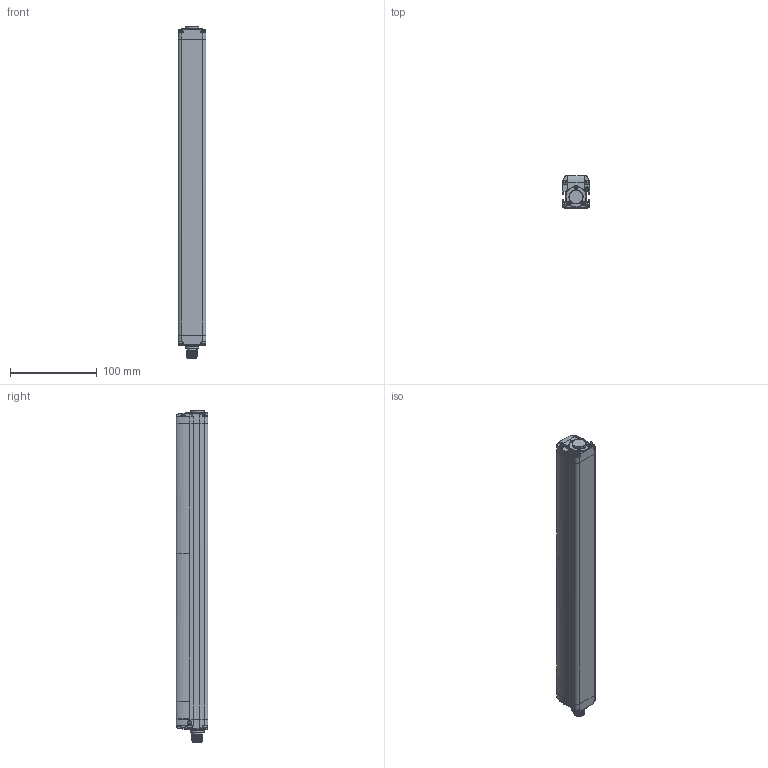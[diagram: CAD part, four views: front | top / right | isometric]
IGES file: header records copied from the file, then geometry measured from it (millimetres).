
Global section: file name: D:\Studi\DSD-0158.igs; preprocessor: I-DEAS 3D IGES Translator 11; date: 20080609.154447; units: millimetre
Bounding box: 32.3 x 36.9 x 383.24 mm (x, y, z)
Volume: 353071 mm3; surface area: 93276.5 mm2
Topology: 12 solids, 12 shells, 1622 faces, 6325 edges, 5174 vertices
Faces by surface type: bspline 1622
